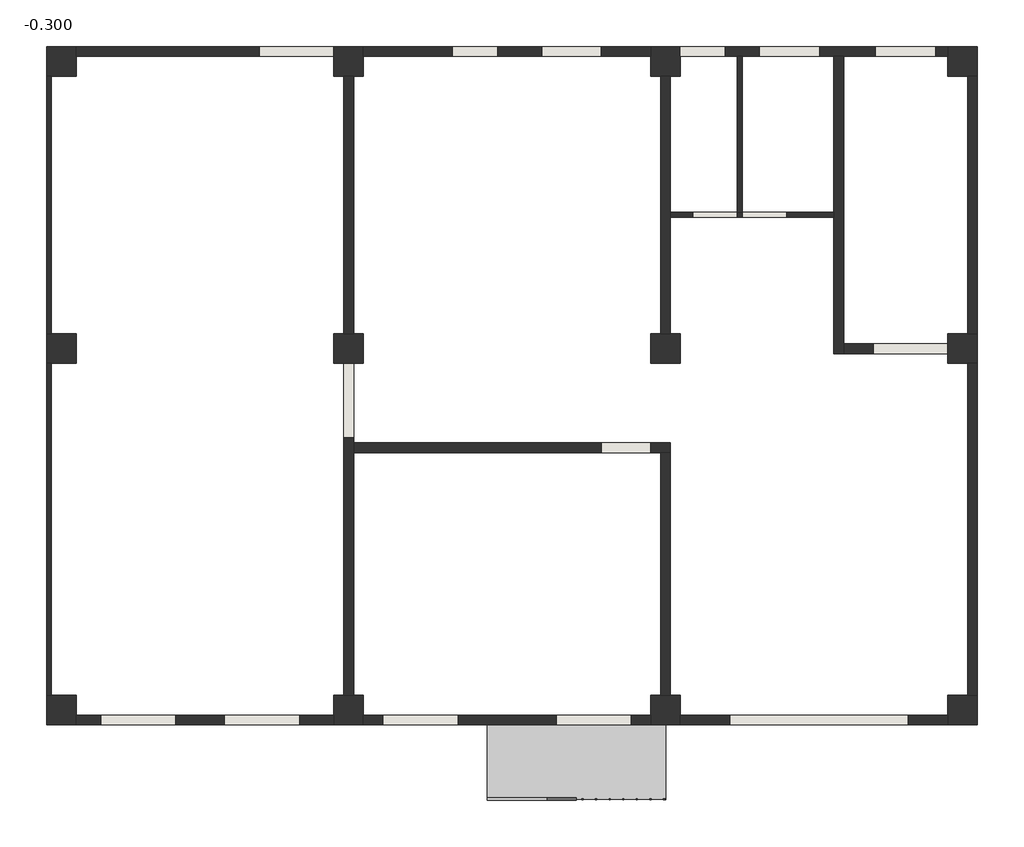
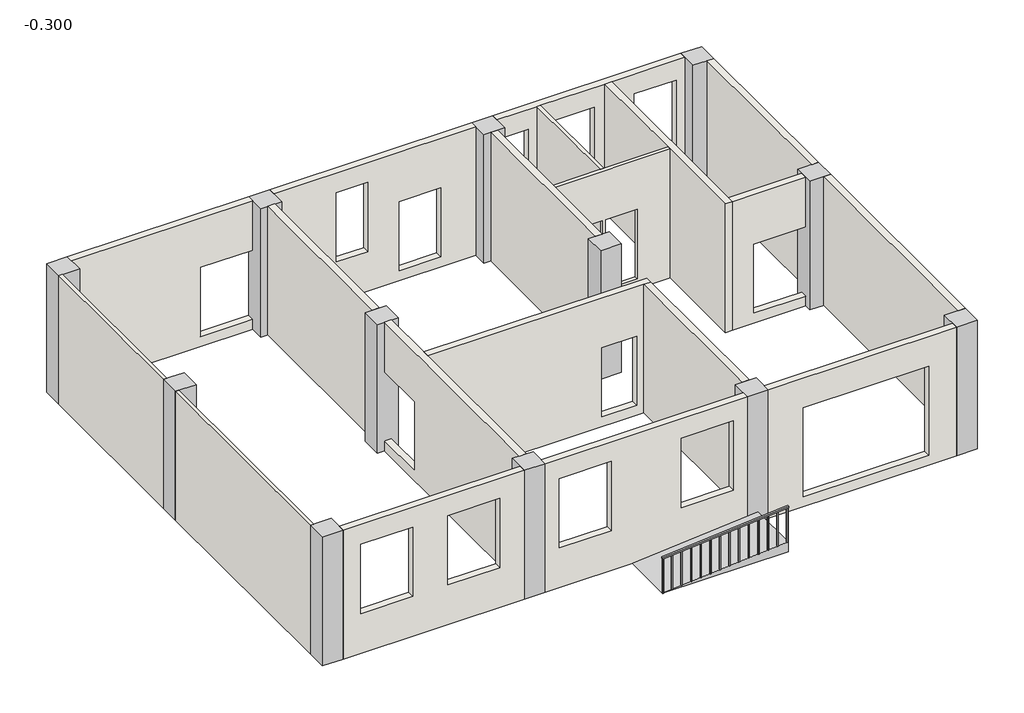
# One storey: 19 walls, 12 columns, 1 railing, 1 ramp.
"""IFC4 building model written with IfcOpenShell, lengths in millimetres."""

from ifc_helpers import new_model, si_unit, frame, origin, place, context, project, spatial, polyline, outline, extrude, faceted_brep, transform, mapped, element, save
from components import column_600_x_600mm_f4c2939b, ramp_ccd530bd

model = new_model("IFC4")

# Units and contexts
model_context = context("Model", 3, world=origin())
ifc_project = project(units=[si_unit("LENGTHUNIT", "METRE", prefix="MILLI")], contexts=[model_context])

# Site, building, storey
site = spatial("IfcSite", under=ifc_project)
building = spatial("IfcBuilding", under=site)
storey = spatial("IfcBuildingStorey", under=building, Name="-0.300", Elevation=-300.0)

# Columns
placement = place(None, origin())
column_600_x_600mm_shape = column_600_x_600mm_f4c2939b(model_context)
element("IfcColumn", 1, ObjectType="混凝土 - 矩形 - 柱 : 600 x 600mm", at=placement, inside=storey, context=model_context, shape_type="MappedRepresentation", body=[
    mapped(column_600_x_600mm_shape, transform((200.0, 13300.0, 0.0), x_axis=(1.0, 0.0, 0.0), y_axis=(0.0, 1.0, 0.0), z_axis=(0.0, 0.0, 1.0))),
])
element("IfcColumn", 2, ObjectType="混凝土 - 矩形 - 柱 : 600 x 600mm", at=placement, inside=storey, context=model_context, shape_type="MappedRepresentation", body=[
    mapped(column_600_x_600mm_shape, transform((6000.0, 13300.0, 0.0), x_axis=(1.0, 0.0, 0.0), y_axis=(0.0, 1.0, 0.0), z_axis=(0.0, 0.0, 1.0))),
])
element("IfcColumn", 3, ObjectType="混凝土 - 矩形 - 柱 : 600 x 600mm", at=placement, inside=storey, context=model_context, shape_type="MappedRepresentation", body=[
    mapped(column_600_x_600mm_shape, transform((12400.0, 13300.0, 0.0), x_axis=(1.0, 0.0, 0.0), y_axis=(0.0, 1.0, 0.0), z_axis=(0.0, 0.0, 1.0))),
])
element("IfcColumn", 4, ObjectType="混凝土 - 矩形 - 柱 : 600 x 600mm", at=placement, inside=storey, context=model_context, shape_type="MappedRepresentation", body=[
    mapped(column_600_x_600mm_shape, transform((18400.0, 13300.0, 0.0), x_axis=(1.0, 0.0, 0.0), y_axis=(0.0, 1.0, 0.0), z_axis=(0.0, 0.0, 1.0))),
])
element("IfcColumn", 5, ObjectType="混凝土 - 矩形 - 柱 : 600 x 600mm", at=placement, inside=storey, context=model_context, shape_type="MappedRepresentation", body=[
    mapped(column_600_x_600mm_shape, transform((200.0, 7500.0, 0.0), x_axis=(1.0, 0.0, 0.0), y_axis=(0.0, 1.0, 0.0), z_axis=(0.0, 0.0, 1.0))),
])
element("IfcColumn", 6, ObjectType="混凝土 - 矩形 - 柱 : 600 x 600mm", at=placement, inside=storey, context=model_context, shape_type="MappedRepresentation", body=[
    mapped(column_600_x_600mm_shape, transform((6000.0, 7500.0, 0.0), x_axis=(1.0, 0.0, 0.0), y_axis=(0.0, 1.0, 0.0), z_axis=(0.0, 0.0, 1.0))),
])
element("IfcColumn", 7, ObjectType="混凝土 - 矩形 - 柱 : 600 x 600mm", at=placement, inside=storey, context=model_context, shape_type="MappedRepresentation", body=[
    mapped(column_600_x_600mm_shape, transform((12400.0, 7500.0, 0.0), x_axis=(1.0, 0.0, 0.0), y_axis=(0.0, 1.0, 0.0), z_axis=(0.0, 0.0, 1.0))),
])
element("IfcColumn", 8, ObjectType="混凝土 - 矩形 - 柱 : 600 x 600mm", at=placement, inside=storey, context=model_context, shape_type="MappedRepresentation", body=[
    mapped(column_600_x_600mm_shape, transform((18400.0, 7500.0, 0.0), x_axis=(1.0, 0.0, 0.0), y_axis=(0.0, 1.0, 0.0), z_axis=(0.0, 0.0, 1.0))),
])
element("IfcColumn", 9, ObjectType="混凝土 - 矩形 - 柱 : 600 x 600mm", at=placement, inside=storey, context=model_context, shape_type="MappedRepresentation", body=[
    mapped(column_600_x_600mm_shape, transform((200.0, 200.0, 0.0), x_axis=(1.0, 0.0, 0.0), y_axis=(0.0, 1.0, 0.0), z_axis=(0.0, 0.0, 1.0))),
])
element("IfcColumn", 10, ObjectType="混凝土 - 矩形 - 柱 : 600 x 600mm", at=placement, inside=storey, context=model_context, shape_type="MappedRepresentation", body=[
    mapped(column_600_x_600mm_shape, transform((6000.0, 200.0, 0.0), x_axis=(1.0, 0.0, 0.0), y_axis=(0.0, 1.0, 0.0), z_axis=(0.0, 0.0, 1.0))),
])
element("IfcColumn", 11, ObjectType="混凝土 - 矩形 - 柱 : 600 x 600mm", at=placement, inside=storey, context=model_context, shape_type="MappedRepresentation", body=[
    mapped(column_600_x_600mm_shape, transform((12400.0, 200.0, 0.0), x_axis=(1.0, 0.0, 0.0), y_axis=(0.0, 1.0, 0.0), z_axis=(0.0, 0.0, 1.0))),
])
element("IfcColumn", 12, ObjectType="混凝土 - 矩形 - 柱 : 600 x 600mm", at=placement, inside=storey, context=model_context, shape_type="MappedRepresentation", body=[
    mapped(column_600_x_600mm_shape, transform((18400.0, 200.0, 0.0), x_axis=(1.0, 0.0, 0.0), y_axis=(0.0, 1.0, 0.0), z_axis=(0.0, 0.0, 1.0))),
])

# Railing
element("IfcRailing", 13, ObjectType="1100mm", at=placement, inside=storey, context=model_context, shape_type="SweptSolid", body=[
    extrude(outline(polyline([(800.0, 8796.4969701), (749.8270255, 8796.4969701), (1049.8270255, 12400.0), (1100.0, 12400.0), (800.0, 8796.4969701)])), frame((0.0, -1625.0, 0.0), z_axis=(0.0, 1.0, 0.0), x_axis=(0.0, 0.0, 1.0)), (0.0, 0.0, 1.0), 50.0),
    extrude(outline(polyline([(-3.4135975, 12358.9969701), (-1.3322894, 12383.9969701), (1048.494736, 12383.9969701), (1046.413428, 12358.9969701), (-3.4135975, 12358.9969701)])), frame((0.0, -1612.5, 0.0), z_axis=(0.0, 1.0, 0.0), x_axis=(0.0, 0.0, 1.0)), (0.0, 0.0, 1.0), 25.0),
    extrude(outline(polyline([(-26.3079865, 12083.9969701), (-24.2266784, 12108.9969701), (1025.6003471, 12108.9969701), (1023.519039, 12083.9969701), (-26.3079865, 12083.9969701)])), frame((0.0, -1612.5, 0.0), z_axis=(0.0, 1.0, 0.0), x_axis=(0.0, 0.0, 1.0)), (0.0, 0.0, 1.0), 25.0),
    extrude(outline(polyline([(-49.2023754, 11808.9969701), (-47.1210674, 11833.9969701), (1002.7059581, 11833.9969701), (1000.62465, 11808.9969701), (-49.2023754, 11808.9969701)])), frame((0.0, -1612.5, 0.0), z_axis=(0.0, 1.0, 0.0), x_axis=(0.0, 0.0, 1.0)), (0.0, 0.0, 1.0), 25.0),
    extrude(outline(polyline([(-72.0967644, 11533.9969701), (-70.0154563, 11558.9969701), (979.8115691, 11558.9969701), (977.7302611, 11533.9969701), (-72.0967644, 11533.9969701)])), frame((0.0, -1612.5, 0.0), z_axis=(0.0, 1.0, 0.0), x_axis=(0.0, 0.0, 1.0)), (0.0, 0.0, 1.0), 25.0),
    extrude(outline(polyline([(-94.9911534, 11258.9969701), (-92.9098453, 11283.9969701), (956.9171802, 11283.9969701), (954.8358721, 11258.9969701), (-94.9911534, 11258.9969701)])), frame((0.0, -1612.5, 0.0), z_axis=(0.0, 1.0, 0.0), x_axis=(0.0, 0.0, 1.0)), (0.0, 0.0, 1.0), 25.0),
    extrude(outline(polyline([(-117.8855423, 10983.9969701), (-115.8042342, 11008.9969701), (934.0227912, 11008.9969701), (931.9414831, 10983.9969701), (-117.8855423, 10983.9969701)])), frame((0.0, -1612.5, 0.0), z_axis=(0.0, 1.0, 0.0), x_axis=(0.0, 0.0, 1.0)), (0.0, 0.0, 1.0), 25.0),
    extrude(outline(polyline([(-140.7799313, 10708.9969701), (-138.6986232, 10733.9969701), (911.1284023, 10733.9969701), (909.0470942, 10708.9969701), (-140.7799313, 10708.9969701)])), frame((0.0, -1612.5, 0.0), z_axis=(0.0, 1.0, 0.0), x_axis=(0.0, 0.0, 1.0)), (0.0, 0.0, 1.0), 25.0),
    extrude(outline(polyline([(-163.6743203, 10433.9969701), (-161.5930122, 10458.9969701), (888.2340133, 10458.9969701), (886.1527052, 10433.9969701), (-163.6743203, 10433.9969701)])), frame((0.0, -1612.5, 0.0), z_axis=(0.0, 1.0, 0.0), x_axis=(0.0, 0.0, 1.0)), (0.0, 0.0, 1.0), 25.0),
    extrude(outline(polyline([(-186.5687092, 10158.9969701), (-184.4874011, 10183.9969701), (865.3396243, 10183.9969701), (863.2583162, 10158.9969701), (-186.5687092, 10158.9969701)])), frame((0.0, -1612.5, 0.0), z_axis=(0.0, 1.0, 0.0), x_axis=(0.0, 0.0, 1.0)), (0.0, 0.0, 1.0), 25.0),
    extrude(outline(polyline([(-209.4630982, 9883.9969701), (-207.3817901, 9908.9969701), (842.4452354, 9908.9969701), (840.3639273, 9883.9969701), (-209.4630982, 9883.9969701)])), frame((0.0, -1612.5, 0.0), z_axis=(0.0, 1.0, 0.0), x_axis=(0.0, 0.0, 1.0)), (0.0, 0.0, 1.0), 25.0),
    extrude(outline(polyline([(-232.3574872, 9608.9969701), (-230.2761791, 9633.9969701), (819.5508464, 9633.9969701), (817.4695383, 9608.9969701), (-232.3574872, 9608.9969701)])), frame((0.0, -1612.5, 0.0), z_axis=(0.0, 1.0, 0.0), x_axis=(0.0, 0.0, 1.0)), (0.0, 0.0, 1.0), 25.0),
    extrude(outline(polyline([(-255.2518761, 9333.9969701), (-253.170568, 9358.9969701), (796.6564574, 9358.9969701), (794.5751494, 9333.9969701), (-255.2518761, 9333.9969701)])), frame((0.0, -1612.5, 0.0), z_axis=(0.0, 1.0, 0.0), x_axis=(0.0, 0.0, 1.0)), (0.0, 0.0, 1.0), 25.0),
    extrude(outline(polyline([(-278.1462651, 9058.9969701), (-276.064957, 9083.9969701), (773.7620685, 9083.9969701), (771.6807604, 9058.9969701), (-278.1462651, 9058.9969701)])), frame((0.0, -1612.5, 0.0), z_axis=(0.0, 1.0, 0.0), x_axis=(0.0, 0.0, 1.0)), (0.0, 0.0, 1.0), 25.0),
    extrude(outline(polyline([(-2.0813081, 12375.0), (0.0, 12400.0), (1049.8270255, 12400.0), (1047.7457174, 12375.0), (-2.0813081, 12375.0)])), frame((0.0, -1612.5, 0.0), z_axis=(0.0, 1.0, 0.0), x_axis=(0.0, 0.0, 1.0)), (0.0, 0.0, 1.0), 25.0),
    extrude(outline(polyline([(-300.0, 8796.4969701), (-297.9186919, 8821.4969701), (751.9083336, 8821.4969701), (749.8270255, 8796.4969701), (-300.0, 8796.4969701)])), frame((0.0, -1612.5, 0.0), z_axis=(0.0, 1.0, 0.0), x_axis=(0.0, 0.0, 1.0)), (0.0, 0.0, 1.0), 25.0),
])

# Ramp
ramp_shape = ramp_ccd530bd(model_context)
element("IfcRamp", 14, ObjectType="坡道 1", at=placement, inside=storey, context=model_context, shape_type="MappedRepresentation", body=[
    mapped(ramp_shape, transform((0.0, 0.0, 0.0), x_axis=(1.0, 0.0, 0.0), y_axis=(0.0, 1.0, 0.0), z_axis=(0.0, 0.0, 1.0))),
])

# Walls
element("IfcWall", 15, ObjectType="200mm厚加气混凝土砌块", at=placement, inside=storey, context=model_context, shape_type="SweptSolid", body=[
    extrude(outline(polyline([(2100.0, 4200.0), (2100.0, 5700.0), (3600.0, 5700.0), (3600.0, 500.0), (-300.0, 500.0), (-300.0, 5700.0), (0.0, 5700.0), (0.0, 4200.0), (2100.0, 4200.0)])), frame((0.0, 13400.0, 0.0), z_axis=(0.0, 1.0, 0.0), x_axis=(0.0, 0.0, 1.0)), (0.0, 0.0, 1.0), 200.0),
])
element("IfcWall", 16, ObjectType="200mm厚加气混凝土砌块", at=placement, inside=storey, context=model_context, shape_type="SweptSolid", body=[
    extrude(outline(polyline([(-300.0, 6300.0), (-300.0, 12100.0), (3600.0, 12100.0), (3600.0, 6300.0), (-300.0, 6300.0)]), holes=[polyline([(0.0, 11100.0), (0.0, 9900.0), (2100.0, 9900.0), (2100.0, 11100.0), (0.0, 11100.0)]), polyline([(900.0, 9000.0), (900.0, 8100.0), (3000.0, 8100.0), (3000.0, 9000.0), (900.0, 9000.0)])]), frame((0.0, 13400.0, 0.0), z_axis=(0.0, 1.0, 0.0), x_axis=(0.0, 0.0, 1.0)), (0.0, 0.0, 1.0), 200.0),
])
element("IfcWall", 17, ObjectType="200mm厚加气混凝土砌块", at=placement, inside=storey, context=model_context, shape_type="Brep", body=[
    faceted_brep([(13600.0, 13400.0, 900.0), (12700.0, 13400.0, 900.0), (12700.0, 13400.0, -300.0), (13850.0, 13400.0, -300.0), (13950.0, 13400.0, -300.0), (15800.0, 13400.0, -300.0), (16000.0, 13400.0, -300.0), (18100.0, 13400.0, -300.0), (18100.0, 13400.0, 3600.0), (16000.0, 13400.0, 3600.0), (15800.0, 13400.0, 3600.0), (13950.0, 13400.0, 3600.0), (13850.0, 13400.0, 3600.0), (12700.0, 13400.0, 3600.0), (12700.0, 13400.0, 3000.0), (13600.0, 13400.0, 3000.0), (15500.0, 13400.0, 900.0), (14300.0, 13400.0, 900.0), (14300.0, 13400.0, 3000.0), (15500.0, 13400.0, 3000.0), (17850.0, 13400.0, 900.0), (16650.0, 13400.0, 900.0), (16650.0, 13400.0, 3000.0), (17850.0, 13400.0, 3000.0), (12700.0, 13600.0, -300.0), (12700.0, 13600.0, 900.0), (13600.0, 13600.0, 900.0), (13600.0, 13600.0, 3000.0), (12700.0, 13600.0, 3000.0), (12700.0, 13600.0, 3600.0), (18100.0, 13600.0, 3600.0), (18100.0, 13600.0, -300.0), (15500.0, 13600.0, 900.0), (15500.0, 13600.0, 3000.0), (14300.0, 13600.0, 3000.0), (14300.0, 13600.0, 900.0), (17850.0, 13600.0, 900.0), (17850.0, 13600.0, 3000.0), (16650.0, 13600.0, 3000.0), (16650.0, 13600.0, 900.0)], [[[0, 1, 2, 3, 4, 5, 6, 7, 8, 9, 10, 11, 12, 13, 14, 15], [16, 17, 18, 19], [20, 21, 22, 23]], [[24, 25, 26, 27, 28, 29, 30, 31], [32, 33, 34, 35], [36, 37, 38, 39]], [[7, 6, 5, 4, 3, 2, 24, 31]], [[8, 7, 31, 30]], [[13, 12, 11, 10, 9, 8, 30, 29]], [[14, 13, 29, 28]], [[2, 1, 25, 24]], [[27, 26, 0, 15]], [[28, 27, 15, 14]], [[26, 25, 1, 0]], [[33, 32, 16, 19]], [[34, 33, 19, 18]], [[35, 34, 18, 17]], [[32, 35, 17, 16]], [[37, 36, 20, 23]], [[38, 37, 23, 22]], [[39, 38, 22, 21]], [[36, 39, 21, 20]]]),
])
element("IfcWall", 18, ObjectType="200mm厚加气混凝土砌块", at=placement, inside=storey, context=model_context, shape_type="SweptSolid", body=[
    extrude(outline(polyline([(18500.0, 7800.0), (18500.0, 13000.0), (18700.0, 13000.0), (18700.0, 7800.0), (18500.0, 7800.0)])), frame((0.0, 0.0, -300.0), z_axis=(0.0, 0.0, 1.0), x_axis=(1.0, 0.0, 0.0)), (0.0, 0.0, 1.0), 3900.0),
])
element("IfcWall", 19, ObjectType="200mm厚加气混凝土砌块", at=placement, inside=storey, context=model_context, shape_type="SweptSolid", body=[
    extrude(outline(polyline([(18500.0, 500.0), (18500.0, 7200.0), (18700.0, 7200.0), (18700.0, 500.0), (18500.0, 500.0)])), frame((0.0, 0.0, -300.0), z_axis=(0.0, 0.0, 1.0), x_axis=(1.0, 0.0, 0.0)), (0.0, 0.0, 1.0), 3900.0),
])
element("IfcWall", 20, ObjectType="200mm厚加气混凝土砌块", at=placement, inside=storey, context=model_context, shape_type="SweptSolid", body=[
    extrude(outline(polyline([(-300.0, 18100.0), (3600.0, 18100.0), (3600.0, 12700.0), (-300.0, 12700.0), (-300.0, 18100.0)]), holes=[polyline([(2700.0, 17300.0), (0.0, 17300.0), (0.0, 13700.0), (2700.0, 13700.0), (2700.0, 17300.0)])]), frame((0.0, -100.0, 0.0), z_axis=(0.0, 1.0, 0.0), x_axis=(0.0, 0.0, 1.0)), (0.0, 0.0, 1.0), 200.0),
])
element("IfcWall", 21, ObjectType="200mm厚加气混凝土砌块", at=placement, inside=storey, context=model_context, shape_type="SweptSolid", body=[
    extrude(outline(polyline([(-300.0, 12100.0), (3600.0, 12100.0), (3600.0, 6300.0), (-300.0, 6300.0), (-300.0, 12100.0)]), holes=[polyline([(900.0, 10200.0), (3000.0, 10200.0), (3000.0, 11700.0), (900.0, 11700.0), (900.0, 10200.0)]), polyline([(900.0, 6700.0), (3000.0, 6700.0), (3000.0, 8200.0), (900.0, 8200.0), (900.0, 6700.0)])]), frame((0.0, -100.0, 0.0), z_axis=(0.0, 1.0, 0.0), x_axis=(0.0, 0.0, 1.0)), (0.0, 0.0, 1.0), 200.0),
])
element("IfcWall", 22, ObjectType="200mm厚加气混凝土砌块", at=placement, inside=storey, context=model_context, shape_type="SweptSolid", body=[
    extrude(outline(polyline([(-300.0, 5700.0), (3600.0, 5700.0), (3600.0, 500.0), (-300.0, 500.0), (-300.0, 5700.0)]), holes=[polyline([(900.0, 3500.0), (3000.0, 3500.0), (3000.0, 5000.0), (900.0, 5000.0), (900.0, 3500.0)]), polyline([(900.0, 1000.0), (3000.0, 1000.0), (3000.0, 2500.0), (900.0, 2500.0), (900.0, 1000.0)])]), frame((0.0, -100.0, 0.0), z_axis=(0.0, 1.0, 0.0), x_axis=(0.0, 0.0, 1.0)), (0.0, 0.0, 1.0), 200.0),
])
element("IfcWall", 23, ObjectType="100mm厚加气混凝土砌块", at=placement, inside=storey, context=model_context, shape_type="SweptSolid", body=[
    extrude(outline(polyline([(0.0, 7200.0), (0.0, 500.0), (-100.0, 500.0), (-100.0, 7200.0), (0.0, 7200.0)])), frame((0.0, 0.0, -300.0), z_axis=(0.0, 0.0, 1.0), x_axis=(1.0, 0.0, 0.0)), (0.0, 0.0, 1.0), 3900.0),
])
element("IfcWall", 24, ObjectType="100mm厚加气混凝土砌块", at=placement, inside=storey, context=model_context, shape_type="SweptSolid", body=[
    extrude(outline(polyline([(0.0, 13000.0), (0.0, 7800.0), (-100.0, 7800.0), (-100.0, 13000.0), (0.0, 13000.0)])), frame((0.0, 0.0, -300.0), z_axis=(0.0, 0.0, 1.0), x_axis=(1.0, 0.0, 0.0)), (0.0, 0.0, 1.0), 3900.0),
])
element("IfcWall", 25, ObjectType="200mm厚加气混凝土砌块", at=placement, inside=storey, context=model_context, shape_type="SweptSolid", body=[
    extrude(outline(polyline([(5900.0, 7800.0), (5900.0, 13000.0), (6100.0, 13000.0), (6100.0, 7800.0), (5900.0, 7800.0)])), frame((0.0, 0.0, -300.0), z_axis=(0.0, 0.0, 1.0), x_axis=(1.0, 0.0, 0.0)), (0.0, 0.0, 1.0), 3900.0),
])
element("IfcWall", 26, ObjectType="200mm厚加气混凝土砌块", at=placement, inside=storey, context=model_context, shape_type="Brep", body=[
    faceted_brep([(5900.0, 5700.0, 0.0), (5900.0, 7200.0, 0.0), (5900.0, 7200.0, -300.0), (5900.0, 500.0, -300.0), (5900.0, 500.0, 3600.0), (5900.0, 7200.0, 3600.0), (5900.0, 7200.0, 2100.0), (5900.0, 5700.0, 2100.0), (6100.0, 7200.0, -300.0), (6100.0, 7200.0, 0.0), (6100.0, 5700.0, 0.0), (6100.0, 5700.0, 2100.0), (6100.0, 7200.0, 2100.0), (6100.0, 7200.0, 3600.0), (6100.0, 5600.0, 3600.0), (6100.0, 5400.0, 3600.0), (6100.0, 500.0, 3600.0), (6100.0, 500.0, -300.0), (6100.0, 5400.0, -300.0), (6100.0, 5600.0, -300.0)], [[[0, 1, 2, 3, 4, 5, 6, 7]], [[8, 9, 10, 11, 12, 13, 14, 15, 16, 17, 18, 19]], [[3, 2, 8, 19, 18, 17]], [[4, 3, 17, 16]], [[5, 4, 16, 15, 14, 13]], [[6, 5, 13, 12]], [[2, 1, 9, 8]], [[11, 10, 0, 7]], [[12, 11, 7, 6]], [[10, 9, 1, 0]]]),
])
element("IfcWall", 27, ObjectType="200mm厚加气混凝土砌块", at=placement, inside=storey, context=model_context, shape_type="Brep", body=[
    faceted_brep([(6100.0, 5400.0, -300.0), (12300.0, 5400.0, -300.0), (12500.0, 5400.0, -300.0), (12500.0, 5400.0, 3600.0), (12300.0, 5400.0, 3600.0), (6100.0, 5400.0, 3600.0), (12100.0, 5400.0, 0.0), (11100.0, 5400.0, 0.0), (11100.0, 5400.0, 2100.0), (12100.0, 5400.0, 2100.0), (6100.0, 5600.0, -300.0), (6100.0, 5600.0, 3600.0), (12500.0, 5600.0, 3600.0), (12500.0, 5600.0, -300.0), (12100.0, 5600.0, 0.0), (12100.0, 5600.0, 2100.0), (11100.0, 5600.0, 2100.0), (11100.0, 5600.0, 0.0)], [[[0, 1, 2, 3, 4, 5], [6, 7, 8, 9]], [[10, 11, 12, 13], [14, 15, 16, 17]], [[2, 1, 0, 10, 13]], [[5, 4, 3, 12, 11]], [[0, 5, 11, 10]], [[3, 2, 13, 12]], [[15, 14, 6, 9]], [[16, 15, 9, 8]], [[17, 16, 8, 7]], [[14, 17, 7, 6]]]),
])
element("IfcWall", 28, ObjectType="200mm厚加气混凝土砌块", at=placement, inside=storey, context=model_context, shape_type="SweptSolid", body=[
    extrude(outline(polyline([(12300.0, 500.0), (12300.0, 5400.0), (12500.0, 5400.0), (12500.0, 500.0), (12300.0, 500.0)])), frame((0.0, 0.0, -300.0), z_axis=(0.0, 0.0, 1.0), x_axis=(1.0, 0.0, 0.0)), (0.0, 0.0, 1.0), 3900.0),
])
element("IfcWall", 29, ObjectType="200mm厚加气混凝土砌块", at=placement, inside=storey, context=model_context, shape_type="Brep", body=[
    faceted_brep([(12300.0, 13000.0, -300.0), (12300.0, 7800.0, -300.0), (12300.0, 7800.0, 3600.0), (12300.0, 13000.0, 3600.0), (12500.0, 13000.0, -300.0), (12500.0, 13000.0, 3600.0), (12500.0, 10250.0, 3600.0), (12500.0, 10150.0, 3600.0), (12500.0, 7800.0, 3600.0), (12500.0, 7800.0, -300.0), (12500.0, 10150.0, -300.0), (12500.0, 10250.0, -300.0)], [[[0, 1, 2, 3]], [[4, 5, 6, 7, 8, 9, 10, 11]], [[1, 0, 4, 11, 10, 9]], [[2, 1, 9, 8]], [[3, 2, 8, 7, 6, 5]], [[0, 3, 5, 4]]]),
])
element("IfcWall", 30, ObjectType="200mm厚加气混凝土砌块", at=placement, inside=storey, context=model_context, shape_type="Brep", body=[
    faceted_brep([(15800.0, 13400.0, -300.0), (15800.0, 10250.0, -300.0), (15800.0, 10150.0, -300.0), (15800.0, 7400.0, -300.0), (15800.0, 7400.0, 3600.0), (15800.0, 10150.0, 3600.0), (15800.0, 10250.0, 3600.0), (15800.0, 13400.0, 3600.0), (16000.0, 13400.0, -300.0), (16000.0, 13400.0, 3600.0), (16000.0, 7600.0, 3600.0), (16000.0, 7400.0, 3600.0), (16000.0, 7400.0, -300.0), (16000.0, 7600.0, -300.0)], [[[0, 1, 2, 3, 4, 5, 6, 7]], [[8, 9, 10, 11, 12, 13]], [[3, 2, 1, 0, 8, 13, 12]], [[7, 6, 5, 4, 11, 10, 9]], [[0, 7, 9, 8]], [[4, 3, 12, 11]]]),
])
element("IfcWall", 31, ObjectType="200mm厚加气混凝土砌块", at=placement, inside=storey, context=model_context, shape_type="SweptSolid", body=[
    extrude(outline(polyline([(-300.0, 18100.0), (0.0, 18100.0), (0.0, 16600.0), (2100.0, 16600.0), (2100.0, 18100.0), (3600.0, 18100.0), (3600.0, 16000.0), (-300.0, 16000.0), (-300.0, 18100.0)])), frame((0.0, 7400.0, 0.0), z_axis=(0.0, 1.0, 0.0), x_axis=(0.0, 0.0, 1.0)), (0.0, 0.0, 1.0), 200.0),
])
element("IfcWall", 32, ObjectType="100mm厚加气混凝土砌块", at=placement, inside=storey, context=model_context, shape_type="Brep", body=[
    faceted_brep([(12500.0, 10150.0, -300.0), (15800.0, 10150.0, -300.0), (15800.0, 10150.0, 3600.0), (12500.0, 10150.0, 3600.0), (13850.0, 10150.0, 0.0), (12950.0, 10150.0, 0.0), (12950.0, 10150.0, 2100.0), (13850.0, 10150.0, 2100.0), (13950.0, 10150.0, 0.0), (13950.0, 10150.0, 2100.0), (14850.0, 10150.0, 2100.0), (14850.0, 10150.0, 0.0), (12500.0, 10250.0, -300.0), (12500.0, 10250.0, 3600.0), (13850.0, 10250.0, 3600.0), (13950.0, 10250.0, 3600.0), (15800.0, 10250.0, 3600.0), (15800.0, 10250.0, -300.0), (13950.0, 10250.0, -300.0), (13850.0, 10250.0, -300.0), (13950.0, 10250.0, 0.0), (14850.0, 10250.0, 0.0), (14850.0, 10250.0, 2100.0), (13950.0, 10250.0, 2100.0), (13850.0, 10250.0, 0.0), (13850.0, 10250.0, 2100.0), (12950.0, 10250.0, 2100.0), (12950.0, 10250.0, 0.0)], [[[0, 1, 2, 3], [4, 5, 6, 7], [8, 9, 10, 11]], [[12, 13, 14, 15, 16, 17, 18, 19], [20, 21, 22, 23], [24, 25, 26, 27]], [[1, 0, 12, 19, 18, 17]], [[3, 2, 16, 15, 14, 13]], [[0, 3, 13, 12]], [[2, 1, 17, 16]], [[25, 24, 4, 7]], [[26, 25, 7, 6]], [[27, 26, 6, 5]], [[24, 27, 5, 4]], [[9, 8, 20, 23]], [[10, 9, 23, 22]], [[11, 10, 22, 21]], [[8, 11, 21, 20]]]),
])
element("IfcWall", 33, ObjectType="100mm厚加气混凝土砌块", at=placement, inside=storey, context=model_context, shape_type="SweptSolid", body=[
    extrude(outline(polyline([(13850.0, 10250.0), (13850.0, 13400.0), (13950.0, 13400.0), (13950.0, 10250.0), (13850.0, 10250.0)])), frame((0.0, 0.0, -300.0), z_axis=(0.0, 0.0, 1.0), x_axis=(1.0, 0.0, 0.0)), (0.0, 0.0, 1.0), 3900.0),
])

save(model, "model.ifc")
